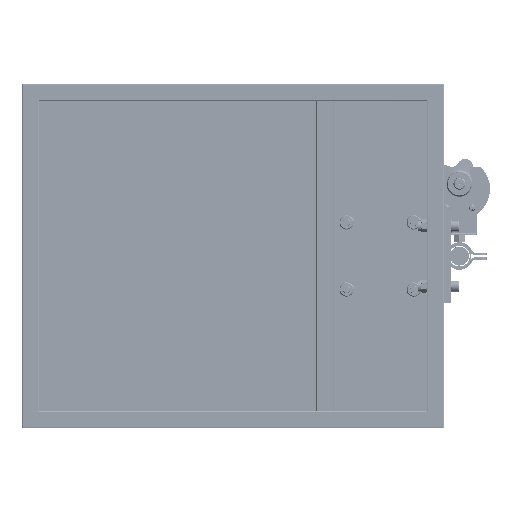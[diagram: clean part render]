
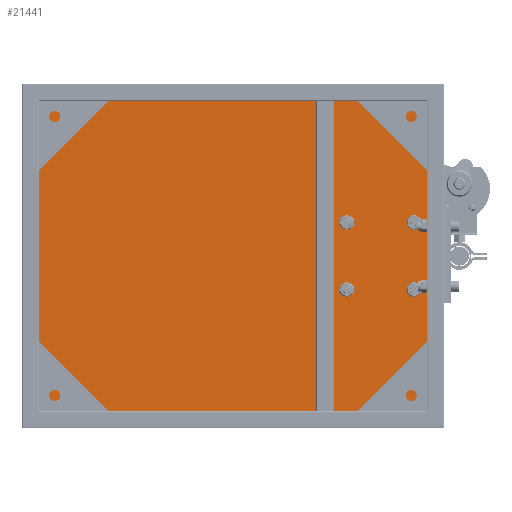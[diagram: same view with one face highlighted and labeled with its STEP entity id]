
A CAD part, front view. The second image highlights one B-rep face of the part: STEP entity #21441.
In plain terms, the highlighted planar face has unit normal (0, -1, 0).
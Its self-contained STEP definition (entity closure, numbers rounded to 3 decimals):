
#5209 = DIRECTION ( 'NONE',  ( -1., 0., 0. ) ) ;
#9534 = CARTESIAN_POINT ( 'NONE',  ( -39.109, -3., -46.641 ) ) ;
#18143 = CARTESIAN_POINT ( 'NONE',  ( -39.109, -3., 39.109 ) ) ;
#18576 = CARTESIAN_POINT ( 'NONE',  ( -55.109, -3., 0.109 ) ) ;
#21032 = EDGE_LOOP ( 'NONE', ( #114356 ) ) ;
#21441 = ADVANCED_FACE ( 'NONE', ( #108902, #139136, #95690, #125898, #153341, #124015 ), #83342, .T. ) ;
#22549 = EDGE_CURVE ( 'NONE', #49690, #49690, #46939, .T. ) ;
#23096 = CARTESIAN_POINT ( 'NONE',  ( -73.109, -3., 0.109 ) ) ;
#23400 = EDGE_CURVE ( 'NONE', #87939, #99801, #52709, .T. ) ;
#27581 = EDGE_CURVE ( 'NONE', #45933, #87939, #48861, .T. ) ;
#28419 = AXIS2_PLACEMENT_3D ( 'NONE', #70174, #73838, #156226 ) ;
#31212 = VECTOR ( 'NONE', #177562, 1000. ) ;
#31487 = ORIENTED_EDGE ( 'NONE', *, *, #121248, .F. ) ;
#31588 = VERTEX_POINT ( 'NONE', #89298 ) ;
#33280 = DIRECTION ( 'NONE',  ( 0., 0., -1. ) ) ;
#33547 = CARTESIAN_POINT ( 'NONE',  ( 54.891, -3., -180.891 ) ) ;
#35488 = CARTESIAN_POINT ( 'NONE',  ( 38.891, -3., 31.359 ) ) ;
#38185 = EDGE_LOOP ( 'NONE', ( #172976 ) ) ;
#38599 = EDGE_LOOP ( 'NONE', ( #173487, #127912, #93042, #164103 ) ) ;
#38853 = CIRCLE ( 'NONE', #105198, 7.75 ) ;
#43408 = CIRCLE ( 'NONE', #28419, 7.75 ) ;
#44370 = CARTESIAN_POINT ( 'NONE',  ( -39.109, -3., -38.891 ) ) ;
#45933 = VERTEX_POINT ( 'NONE', #111575 ) ;
#46294 = CARTESIAN_POINT ( 'NONE',  ( -397.109, -3., 0.109 ) ) ;
#46939 = CIRCLE ( 'NONE', #95344, 7.75 ) ;
#48861 = LINE ( 'NONE', #18576, #166295 ) ;
#49475 = EDGE_LOOP ( 'NONE', ( #179273 ) ) ;
#49690 = VERTEX_POINT ( 'NONE', #35488 ) ;
#51756 = CARTESIAN_POINT ( 'NONE',  ( -171.109, -3., 180.109 ) ) ;
#52709 = LINE ( 'NONE', #51756, #144919 ) ;
#54644 = CARTESIAN_POINT ( 'NONE',  ( -397.109, -3., -180.891 ) ) ;
#58000 = DIRECTION ( 'NONE',  ( 0., -1., 0. ) ) ;
#58746 = VERTEX_POINT ( 'NONE', #143485 ) ;
#60023 = LINE ( 'NONE', #130033, #133063 ) ;
#62457 = EDGE_LOOP ( 'NONE', ( #31487, #171033, #134407, #140322 ) ) ;
#63157 = CARTESIAN_POINT ( 'NONE',  ( -171.109, -3., -180.891 ) ) ;
#65173 = AXIS2_PLACEMENT_3D ( 'NONE', #169400, #181708, #81479 ) ;
#67495 = EDGE_CURVE ( 'NONE', #145277, #145277, #38853, .T. ) ;
#70174 = CARTESIAN_POINT ( 'NONE',  ( 38.891, -3., -38.891 ) ) ;
#73838 = DIRECTION ( 'NONE',  ( 0., -1., 0. ) ) ;
#76811 = CARTESIAN_POINT ( 'NONE',  ( -73.109, -3., -179.891 ) ) ;
#78107 = CARTESIAN_POINT ( 'NONE',  ( 54.891, -3., 0.109 ) ) ;
#80008 = DIRECTION ( 'NONE',  ( 0., 0., 1. ) ) ;
#81479 = DIRECTION ( 'NONE',  ( 0., 0., -1. ) ) ;
#82707 = EDGE_CURVE ( 'NONE', #138502, #58746, #163129, .T. ) ;
#83267 = VERTEX_POINT ( 'NONE', #9534 ) ;
#83342 = PLANE ( 'NONE',  #65173 ) ;
#86815 = CARTESIAN_POINT ( 'NONE',  ( 54.891, -3., 181.109 ) ) ;
#87939 = VERTEX_POINT ( 'NONE', #179962 ) ;
#88681 = VECTOR ( 'NONE', #138468, 1000. ) ;
#89139 = CARTESIAN_POINT ( 'NONE',  ( 38.891, -3., 39.109 ) ) ;
#89298 = CARTESIAN_POINT ( 'NONE',  ( 38.891, -3., -46.641 ) ) ;
#90055 = DIRECTION ( 'NONE',  ( 0., -1., 0. ) ) ;
#90480 = DIRECTION ( 'NONE',  ( 0., 0., 1. ) ) ;
#93042 = ORIENTED_EDGE ( 'NONE', *, *, #172819, .T. ) ;
#94322 = DIRECTION ( 'NONE',  ( -1., 0., 0. ) ) ;
#95344 = AXIS2_PLACEMENT_3D ( 'NONE', #89139, #58000, #97092 ) ;
#95690 = FACE_BOUND ( 'NONE', #49475, .T. ) ;
#97092 = DIRECTION ( 'NONE',  ( 0., 0., -1. ) ) ;
#99801 = VERTEX_POINT ( 'NONE', #113008 ) ;
#102735 = CARTESIAN_POINT ( 'NONE',  ( -39.109, -3., 31.359 ) ) ;
#104627 = LINE ( 'NONE', #78107, #123937 ) ;
#105198 = AXIS2_PLACEMENT_3D ( 'NONE', #18143, #90055, #33280 ) ;
#107586 = LINE ( 'NONE', #63157, #31212 ) ;
#108902 = FACE_BOUND ( 'NONE', #38185, .T. ) ;
#111575 = CARTESIAN_POINT ( 'NONE',  ( -55.109, -3., -179.891 ) ) ;
#111955 = LINE ( 'NONE', #23096, #88681 ) ;
#113008 = CARTESIAN_POINT ( 'NONE',  ( -73.109, -3., 180.109 ) ) ;
#114356 = ORIENTED_EDGE ( 'NONE', *, *, #133947, .F. ) ;
#116283 = DIRECTION ( 'NONE',  ( 0., 0., -1. ) ) ;
#120017 = EDGE_CURVE ( 'NONE', #179556, #138502, #104627, .T. ) ;
#121248 = EDGE_CURVE ( 'NONE', #186198, #45933, #60023, .T. ) ;
#122260 = CIRCLE ( 'NONE', #152380, 7.75 ) ;
#123937 = VECTOR ( 'NONE', #80008, 1000. ) ;
#124015 = FACE_OUTER_BOUND ( 'NONE', #38599, .T. ) ;
#125898 = FACE_BOUND ( 'NONE', #154936, .T. ) ;
#126940 = VERTEX_POINT ( 'NONE', #54644 ) ;
#127912 = ORIENTED_EDGE ( 'NONE', *, *, #156947, .T. ) ;
#130033 = CARTESIAN_POINT ( 'NONE',  ( -171.109, -3., -179.891 ) ) ;
#132798 = DIRECTION ( 'NONE',  ( 1., 0., 0. ) ) ;
#133063 = VECTOR ( 'NONE', #132798, 1000. ) ;
#133947 = EDGE_CURVE ( 'NONE', #83267, #83267, #122260, .T. ) ;
#134407 = ORIENTED_EDGE ( 'NONE', *, *, #23400, .F. ) ;
#138468 = DIRECTION ( 'NONE',  ( 0., 0., -1. ) ) ;
#138502 = VERTEX_POINT ( 'NONE', #86815 ) ;
#139136 = FACE_BOUND ( 'NONE', #21032, .T. ) ;
#140322 = ORIENTED_EDGE ( 'NONE', *, *, #27581, .F. ) ;
#143485 = CARTESIAN_POINT ( 'NONE',  ( -397.109, -3., 181.109 ) ) ;
#144393 = ORIENTED_EDGE ( 'NONE', *, *, #22549, .F. ) ;
#144919 = VECTOR ( 'NONE', #94322, 1000. ) ;
#145277 = VERTEX_POINT ( 'NONE', #102735 ) ;
#147416 = LINE ( 'NONE', #46294, #176774 ) ;
#152380 = AXIS2_PLACEMENT_3D ( 'NONE', #44370, #173925, #161568 ) ;
#153341 = FACE_BOUND ( 'NONE', #62457, .T. ) ;
#154936 = EDGE_LOOP ( 'NONE', ( #144393 ) ) ;
#156226 = DIRECTION ( 'NONE',  ( 0., 0., -1. ) ) ;
#156947 = EDGE_CURVE ( 'NONE', #58746, #126940, #147416, .T. ) ;
#161568 = DIRECTION ( 'NONE',  ( 0., 0., -1. ) ) ;
#163129 = LINE ( 'NONE', #176389, #180170 ) ;
#164103 = ORIENTED_EDGE ( 'NONE', *, *, #120017, .T. ) ;
#166295 = VECTOR ( 'NONE', #90480, 1000. ) ;
#169400 = CARTESIAN_POINT ( 'NONE',  ( -406.149, -3., 188.349 ) ) ;
#171033 = ORIENTED_EDGE ( 'NONE', *, *, #185019, .F. ) ;
#172819 = EDGE_CURVE ( 'NONE', #126940, #179556, #107586, .T. ) ;
#172976 = ORIENTED_EDGE ( 'NONE', *, *, #67495, .F. ) ;
#173487 = ORIENTED_EDGE ( 'NONE', *, *, #82707, .T. ) ;
#173720 = EDGE_CURVE ( 'NONE', #31588, #31588, #43408, .T. ) ;
#173925 = DIRECTION ( 'NONE',  ( 0., -1., 0. ) ) ;
#176389 = CARTESIAN_POINT ( 'NONE',  ( -171.109, -3., 181.109 ) ) ;
#176774 = VECTOR ( 'NONE', #116283, 1000. ) ;
#177562 = DIRECTION ( 'NONE',  ( 1., 0., 0. ) ) ;
#179273 = ORIENTED_EDGE ( 'NONE', *, *, #173720, .F. ) ;
#179556 = VERTEX_POINT ( 'NONE', #33547 ) ;
#179962 = CARTESIAN_POINT ( 'NONE',  ( -55.109, -3., 180.109 ) ) ;
#180170 = VECTOR ( 'NONE', #5209, 1000. ) ;
#181708 = DIRECTION ( 'NONE',  ( 0., -1., 0. ) ) ;
#185019 = EDGE_CURVE ( 'NONE', #99801, #186198, #111955, .T. ) ;
#186198 = VERTEX_POINT ( 'NONE', #76811 ) ;
